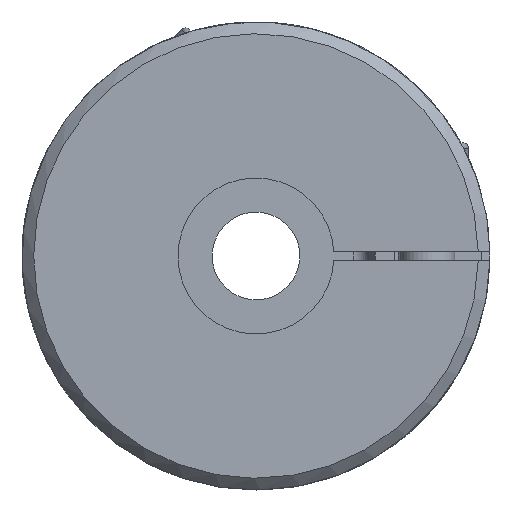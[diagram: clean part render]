
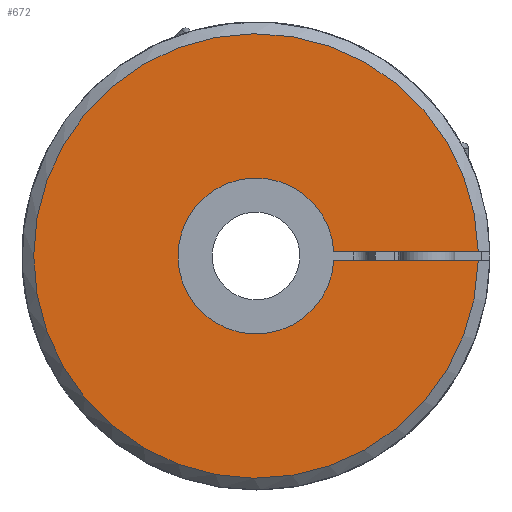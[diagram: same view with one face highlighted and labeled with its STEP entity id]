
A CAD part, left-side view. The second image highlights one B-rep face of the part: STEP entity #672.
In plain terms, the highlighted planar face has unit normal (-1, 0, 0).
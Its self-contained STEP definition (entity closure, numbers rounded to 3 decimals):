
#672 = ADVANCED_FACE( '', ( #1431 ), #1432, .T. );
#1431 = FACE_OUTER_BOUND( '', #2198, .T. );
#1432 = PLANE( '', #2199 );
#2198 = EDGE_LOOP( '', ( #4181, #4182, #4183, #4184 ) );
#2199 = AXIS2_PLACEMENT_3D( '', #4185, #4186, #4187 );
#4181 = ORIENTED_EDGE( '', *, *, #4591, .T. );
#4182 = ORIENTED_EDGE( '', *, *, #4603, .F. );
#4183 = ORIENTED_EDGE( '', *, *, #4648, .T. );
#4184 = ORIENTED_EDGE( '', *, *, #4351, .T. );
#4185 = CARTESIAN_POINT( '', ( 0., 0., 12. ) );
#4186 = DIRECTION( '', ( -1., 0., 0. ) );
#4187 = DIRECTION( '', ( 0., 0., 1. ) );
#4351 = EDGE_CURVE( '', #5187, #5191, #5193, .T. );
#4591 = EDGE_CURVE( '', #5191, #5615, #5617, .T. );
#4603 = EDGE_CURVE( '', #5634, #5615, #5635, .T. );
#4648 = EDGE_CURVE( '', #5634, #5187, #5701, .T. );
#5187 = VERTEX_POINT( '', #6452 );
#5191 = VERTEX_POINT( '', #6457 );
#5193 = CIRCLE( '', #6460, 57. );
#5615 = VERTEX_POINT( '', #7524 );
#5617 = LINE( '', #7527, #7528 );
#5634 = VERTEX_POINT( '', #7545 );
#5635 = CIRCLE( '', #7546, 20. );
#5701 = LINE( '', #7646, #7647 );
#6452 = CARTESIAN_POINT( '', ( 0., -56.988, 1.158 ) );
#6457 = CARTESIAN_POINT( '', ( 0., -56.987, -1.2 ) );
#6460 = AXIS2_PLACEMENT_3D( '', #8887, #8888, #8889 );
#7524 = CARTESIAN_POINT( '', ( 0., -19.964, -1.2 ) );
#7527 = CARTESIAN_POINT( '', ( 0., -61.641, -1.2 ) );
#7528 = VECTOR( '', #9225, 1000. );
#7545 = CARTESIAN_POINT( '', ( 0., -19.966, 1.158 ) );
#7546 = AXIS2_PLACEMENT_3D( '', #9244, #9245, #9246 );
#7646 = CARTESIAN_POINT( '', ( 0., -11.641, 1.158 ) );
#7647 = VECTOR( '', #9317, 1000. );
#8887 = CARTESIAN_POINT( '', ( 0., 0., 0. ) );
#8888 = DIRECTION( '', ( -1., 0., 0. ) );
#8889 = DIRECTION( '', ( 0., 0., 1. ) );
#9225 = DIRECTION( '', ( 0., 1., 0. ) );
#9244 = CARTESIAN_POINT( '', ( 0., 0., 0. ) );
#9245 = DIRECTION( '', ( -1., 0., 0. ) );
#9246 = DIRECTION( '', ( 0., -1., 0. ) );
#9317 = DIRECTION( '', ( 0., -1., 0. ) );
